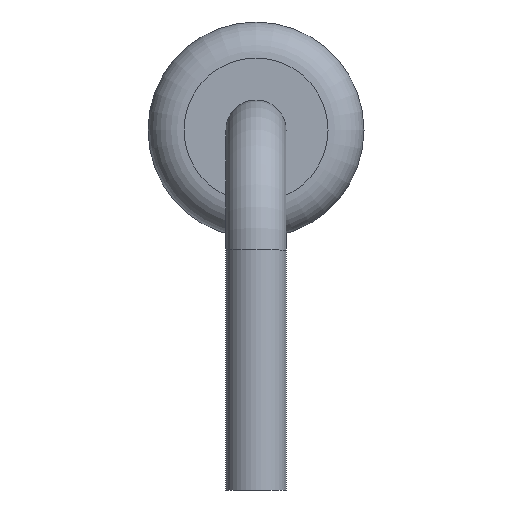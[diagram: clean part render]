
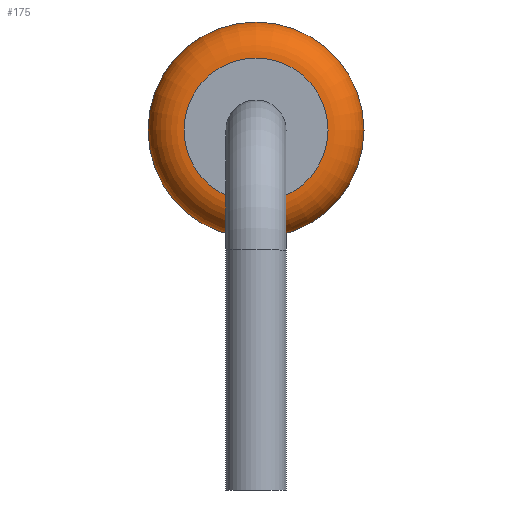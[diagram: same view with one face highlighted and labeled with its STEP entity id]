
A CAD part, left-side view. The second image highlights one B-rep face of the part: STEP entity #175.
In plain terms, the highlighted toroidal (fillet/blend) face has major radius 0.6 mm and minor radius 0.3 mm.
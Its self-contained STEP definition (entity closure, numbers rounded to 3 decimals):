
#175=ADVANCED_FACE('',(#344,#346),#348,.T.);
#344=FACE_OUTER_BOUND('',#345,.T.);
#345=EDGE_LOOP('',(#421));
#346=FACE_OUTER_BOUND('',#347,.T.);
#347=EDGE_LOOP('',(#422));
#348=TOROIDAL_SURFACE('',#349,0.6,0.3);
#349=AXIS2_PLACEMENT_3D('',#350,#351,#352);
#350=CARTESIAN_POINT('',(-1.35,0.,0.));
#351=DIRECTION('',(-1.,0.,0.));
#352=DIRECTION('',(0.,0.,1.));
#421=ORIENTED_EDGE('',*,*,#444,.T.);
#422=ORIENTED_EDGE('',*,*,#445,.F.);
#444=EDGE_CURVE('',#474,#474,#475,.T.);
#445=EDGE_CURVE('',#476,#476,#477,.T.);
#474=VERTEX_POINT('',#546);
#475=CIRCLE('',#547,0.9);
#476=VERTEX_POINT('',#551);
#477=CIRCLE('',#552,0.6);
#546=CARTESIAN_POINT('',(-1.35,0.,0.9));
#547=AXIS2_PLACEMENT_3D('',#548,#549,#550);
#548=CARTESIAN_POINT('',(-1.35,0.,0.));
#549=DIRECTION('',(-1.,0.,0.));
#550=DIRECTION('',(0.,0.,1.));
#551=CARTESIAN_POINT('',(-1.65,0.,0.6));
#552=AXIS2_PLACEMENT_3D('',#553,#554,#555);
#553=CARTESIAN_POINT('',(-1.65,0.,0.));
#554=DIRECTION('',(-1.,0.,0.));
#555=DIRECTION('',(0.,0.,1.));
